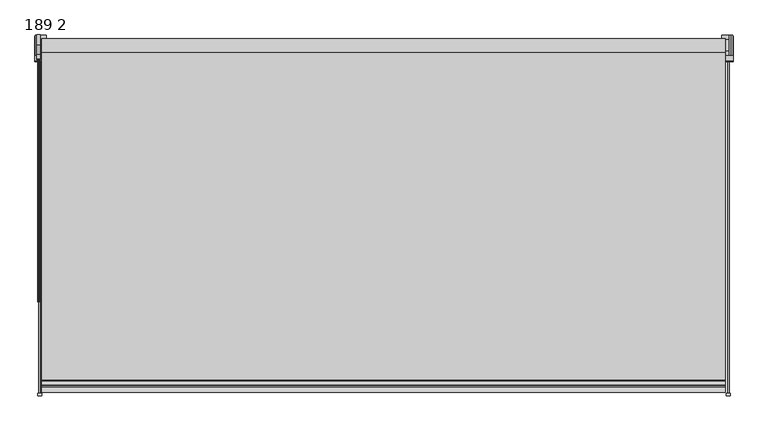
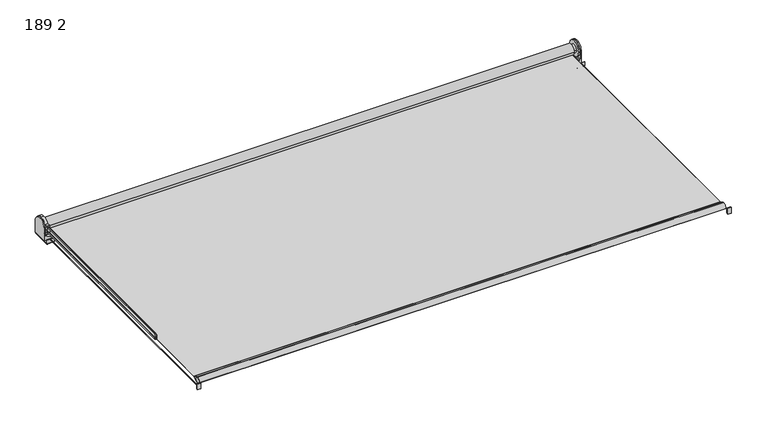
"""IFC4 building model written with IfcOpenShell, lengths in millimetres: proxy geometry, Bandalux_RollerShades_Premium_SingleDrop : 189 2."""

from ifc_helpers import new_model, si_unit, point, frame, frame_2d, origin, place, context, project, spatial, polyline, circle_curve, ellipse_curve, trimmed, segment, composite_curve, outline, extrude, source, transform, mapped, element, save
from ifc_brep_helpers import plane_surface, cylinder_surface, revolved_surface, advanced_brep


def proxy_189_2_be0c6724(model_context):
    return source(origin(), model_context, "Body", "SolidModel", [
        extrude(outline(composite_curve([segment(trimmed(circle_curve(frame_2d((13.8568685, 46.18904)), 29.0636887), [point((13.8568274, 75.2527288))], [point((13.8568685, 17.1253513))], False, "CARTESIAN"), True, "CONTINUOUS"), segment(trimmed(circle_curve(frame_2d((13.0459089, 46.1890395)), 29.075), [point((13.8568685, 17.1253513))], [point((-11.4388077, 30.5092985))], False, "CARTESIAN"), True, "CONTINUOUS"), segment(polyline([(-11.4388077, 30.5092985), (-22.8856924, 30.5092985)]), True, "CONTINUOUS"), segment(trimmed(circle_curve(frame_2d((13.0459089, 46.7342994)), 39.425), [point((-22.8856924, 30.5092985))], [point((-23.3206968, 61.9592991))], False, "CARTESIAN"), True, "CONTINUOUS"), segment(polyline([(-23.3206968, 61.9592991), (-11.380604, 61.9592991)]), True, "CONTINUOUS"), segment(trimmed(circle_curve(frame_2d((13.0459089, 46.1890395)), 29.075), [point((-11.380604, 61.9592991))], [point((13.8568274, 75.2527288))], False, "CARTESIAN"), True, "CONTINUOUS")], self_intersect=False)), frame((-970.8, 0.0, 0.0), z_axis=(1.0, 0.0, 0.0), x_axis=(0.0, 1.0, 0.0)), (0.0, 0.0, 1.0), 9.8),
        advanced_brep(
        [(-970.8, -14.2862631, 46.4), (-970.8, -14.2862631, 21.0), (-970.8, 42.0, 21.0), (-970.8, 42.0, 46.4), (-975.0, 42.0, 2.0), (-975.0, -14.2862631, 2.0), (-975.0, -14.2862631, 46.4), (-975.0, 41.9301797, 46.4), (-966.8, 42.0, 17.0), (-966.8, 42.0, 14.3676071), (-944.5, 42.0, 10.0329262), (-944.5, 42.0, 2.0), (-944.5, -14.2862631, 2.0), (-944.5, -14.2862631, 10.0329262), (-966.8, -14.2862631, 14.3676071), (-966.8, -14.2862631, 17.0)],
        [
            (0, 1),
            (1, 2),
            (2, 3),
            (3, 0, circle_curve(frame((-970.8, 13.8568685, 46.4), z_axis=(1.0, 0.0, 0.0), x_axis=(0.0, -1.0, 0.0)), 28.0733113)),
            (4, 5),
            (5, 6),
            (6, 7, circle_curve(frame((-975.0, 13.8568685, 46.4), z_axis=(-1.0, 0.0, 0.0), x_axis=(0.0, -1.0, 0.0)), 28.0733113)),
            (7, 4),
            (7, 3),
            (2, 8),
            (8, 9),
            (9, 10),
            (10, 11),
            (11, 4),
            (6, 0),
            (5, 12),
            (12, 13),
            (13, 14),
            (14, 15),
            (15, 1),
            (11, 12),
            (14, 9),
            (8, 15),
            (13, 10),
        ],
        [
            plane_surface(frame((-970.8, 42.0, 15.7573593), z_axis=(1.0, 0.0, 0.0), x_axis=(0.0, 0.0, -1.0))),
            plane_surface(frame((-975.0, 42.0, 15.7573593), z_axis=(-1.0, 0.0, 0.0), x_axis=(0.0, 0.0, 1.0))),
            plane_surface(frame((-975.0, 42.0, 2.0), z_axis=(0.0, 1.0, 0.0), x_axis=(1.0, 0.0, 0.0))),
            cylinder_surface(frame((-970.8, 13.8568685, 46.4), z_axis=(-1.0, 0.0, 0.0), x_axis=(0.0, -1.0, 0.0)), 28.0733113),
            plane_surface(frame((-975.0, -14.2862631, 46.4), z_axis=(0.0, -1.0, 0.0), x_axis=(1.0, 0.0, 0.0))),
            plane_surface(frame((-975.0, -14.2862631, 2.0), z_axis=(0.0, 0.0, -1.0), x_axis=(1.0, 0.0, 0.0))),
            plane_surface(frame((-966.8, -14.2862631, 17.0), z_axis=(1.0, 0.0, 0.0), x_axis=(0.0, 1.0, 0.0))),
            plane_surface(frame((-966.8, -14.2862631, 14.3676071), z_axis=(0.19080899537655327, 0.0, 0.9816271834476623), x_axis=(0.0, 1.0, 0.0))),
            plane_surface(frame((-944.5, -14.2862631, 10.0329262), z_axis=(1.0, 0.0, 0.0), x_axis=(0.0, 1.0, 0.0))),
            plane_surface(frame((-970.8, -14.2862631, 21.0), z_axis=(0.7071067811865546, 0.0, 0.7071067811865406), x_axis=(0.0, 1.0, 0.0))),
        ],
        [
            (0, [[1, 2, 3, 4]]),
            (1, [[5, 6, 7, 8]]),
            (2, [[9, -3, 10, 11, 12, 13, 14, -8]]),
            (3, [[-9, -7, 15, -4]]),
            (4, [[16, 17, 18, 19, 20, -1, -15, -6]]),
            (5, [[21, -16, -5, -14]]),
            (6, [[22, -11, 23, -19]]),
            (7, [[24, -12, -22, -18]]),
            (8, [[-21, -13, -24, -17]]),
            (9, [[-23, -10, -2, -20]]),
        ],
    ),
        advanced_brep(
        [(970.8, -14.2164428, 46.4), (970.8, 41.9301797, 46.4), (970.8, 42.0, 21.0), (970.8, -14.2862631, 21.0), (975.0, 42.0, 2.0), (975.0, 42.0, 46.4), (975.0, -14.2164428, 46.4), (975.0, -14.2862631, 2.0), (944.5, 42.0, 2.0), (944.5, 42.0, 10.0329262), (966.8, 42.0, 14.3676071), (966.8, 42.0, 17.0), (966.8, -14.2862631, 17.0), (966.8, -14.2862631, 14.3676071), (944.5, -14.2862631, 10.0329262), (944.5, -14.2862631, 2.0)],
        [
            (0, 1, circle_curve(frame((970.8, 13.8568685, 46.4), z_axis=(-1.0, 0.0, 0.0), x_axis=(0.0, -1.0, 0.0)), 28.0733113)),
            (1, 2),
            (2, 3),
            (3, 0),
            (4, 5),
            (5, 6, circle_curve(frame((975.0, 13.8568685, 46.4), z_axis=(1.0, 0.0, 0.0), x_axis=(0.0, -1.0, 0.0)), 28.0733113)),
            (6, 7),
            (7, 4),
            (4, 8),
            (8, 9),
            (9, 10),
            (10, 11),
            (11, 2),
            (1, 5),
            (0, 6),
            (3, 12),
            (12, 13),
            (13, 14),
            (14, 15),
            (15, 7),
            (15, 8),
            (12, 11),
            (10, 13),
            (9, 14),
        ],
        [
            plane_surface(frame((970.8, 42.0, 15.7573593), z_axis=(-1.0, 0.0, 0.0), x_axis=(0.0, 0.0, -1.0))),
            plane_surface(frame((975.0, 42.0, 15.7573593), z_axis=(1.0, 0.0, 0.0), x_axis=(0.0, 0.0, 1.0))),
            plane_surface(frame((975.0, 42.0, 2.0), z_axis=(0.0, 1.0, 0.0), x_axis=(-1.0, 0.0, 0.0))),
            cylinder_surface(frame((970.8, 13.8568685, 46.4), z_axis=(1.0, 0.0, 0.0), x_axis=(0.0, -1.0, 0.0)), 28.0733113),
            plane_surface(frame((975.0, -14.2862631, 46.4), z_axis=(0.0, -1.0, 0.0), x_axis=(-1.0, 0.0, 0.0))),
            plane_surface(frame((975.0, -14.2862631, 2.0), z_axis=(0.0, 0.0, -1.0), x_axis=(-1.0, 0.0, 0.0))),
            plane_surface(frame((966.8, -14.2862631, 17.0), z_axis=(-1.0, 0.0, 0.0), x_axis=(0.0, 1.0, 0.0))),
            plane_surface(frame((966.8, -14.2862631, 14.3676071), z_axis=(-0.19080899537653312, 0.0, 0.9816271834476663), x_axis=(0.0, 1.0, 0.0))),
            plane_surface(frame((944.5, -14.2862631, 10.0329262), z_axis=(-1.0, 0.0, 0.0), x_axis=(0.0, 1.0, 0.0))),
            plane_surface(frame((970.8, -14.2862631, 21.0), z_axis=(-0.7071067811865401, 0.0, 0.707106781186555), x_axis=(0.0, 1.0, 0.0))),
        ],
        [
            (0, [[1, 2, 3, 4]]),
            (1, [[5, 6, 7, 8]]),
            (2, [[-5, 9, 10, 11, 12, 13, -2, 14]]),
            (3, [[-1, 15, -6, -14]]),
            (4, [[-7, -15, -4, 16, 17, 18, 19, 20]]),
            (5, [[-9, -8, -20, 21]]),
            (6, [[-17, 22, -12, 23]]),
            (7, [[-18, -23, -11, 24]]),
            (8, [[-19, -24, -10, -21]]),
            (9, [[-16, -3, -13, -22]]),
        ],
    ),
        extrude(outline(composite_curve([segment(trimmed(circle_curve(frame_2d((13.8568685, 46.4)), 28.0733113), [point((41.9301797, 46.4))], [point((-14.2164428, 46.4))], False, "CARTESIAN"), True, "CONTINUOUS"), segment(trimmed(circle_curve(frame_2d((13.8568685, 46.4)), 28.0733113), [point((-14.2164428, 46.4))], [point((41.9301797, 46.4))], False, "CARTESIAN"), True, "CONTINUOUS")], self_intersect=False)), frame((965.0, 0.0, 0.0), z_axis=(1.0, 0.0, 0.0), x_axis=(0.0, 1.0, 0.0)), (0.0, 0.0, 1.0), 5.8),
        extrude(outline(composite_curve([segment(trimmed(circle_curve(frame_2d((-947.2, 27.58904)), 10.0), [point((-957.2, 27.58904))], [point((-937.2, 27.58904))], False, "CARTESIAN"), True, "CONTINUOUS"), segment(trimmed(circle_curve(frame_2d((-947.2, 27.58904)), 10.0), [point((-937.2, 27.58904))], [point((-957.2, 27.58904))], False, "CARTESIAN"), True, "CONTINUOUS")], self_intersect=False)), frame((-957.0, 0.0, 0.0), z_axis=(1.0, 0.0, 0.0), x_axis=(0.0, 1.0, 0.0)), (0.0, 0.0, 1.0), 1911.0),
        advanced_brep(
        [(954.0, -924.0848152, 27.58904), (954.0, -942.1539547, 37.1377415), (954.0, -942.1539603, 18.0403499), (954.0, -925.7970491, 27.58904), (954.0, -942.5277469, 18.7476571), (954.0, -942.5277472, 36.430423), (-957.0, -924.0848152, 27.58904), (-957.0, -942.1539544, 18.0403387), (-957.0, -942.1539606, 37.1377303), (-957.0, -925.7970491, 27.58904), (-957.0, -942.5277472, 36.430423), (-957.0, -942.5277469, 18.7476571)],
        [
            (0, 1),
            (1, 2, circle_curve(frame((954.0, -947.2, 27.58904), z_axis=(1.0, 0.0, 0.0), x_axis=(0.0, 1.0, 0.0)), 10.8)),
            (2, 0),
            (3, 4),
            (4, 5, circle_curve(frame((954.0, -947.2, 27.58904), z_axis=(-1.0, 0.0, 0.0), x_axis=(0.0, 1.0, 0.0)), 10.0)),
            (5, 3),
            (6, 7),
            (7, 8, circle_curve(frame((-957.0, -947.2, 27.58904), z_axis=(-1.0, 0.0, 0.0), x_axis=(0.0, 1.0, 0.0)), 10.8)),
            (8, 6),
            (9, 10),
            (10, 11, circle_curve(frame((-957.0, -947.2, 27.58904), z_axis=(1.0, 0.0, 0.0), x_axis=(0.0, 1.0, 0.0)), 10.0)),
            (11, 9),
            (3, 9),
            (11, 4),
            (10, 5),
            (0, 6),
            (8, 1),
            (7, 2),
        ],
        [
            plane_surface(frame((954.0, -925.7970491, 27.58904), z_axis=(1.0000000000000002, 0.0, 0.0), x_axis=(0.0, -0.8841382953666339, -0.4672252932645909))),
            plane_surface(frame((-957.0, -925.7970491, 27.58904), z_axis=(-1.0000000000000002, 0.0, 0.0), x_axis=(0.0, 0.8841382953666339, 0.4672252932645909))),
            plane_surface(frame((954.0, -925.7970491, 27.58904), z_axis=(0.0, -0.4672252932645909, 0.8841382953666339), x_axis=(-1.0, 0.0, 0.0))),
            revolved_surface(polyline([(-957.0, -937.2, 27.58904), (954.0, -937.2, 27.58904)]), (-957.0, -947.2, 27.58904), (-1.0, 0.0, 0.0)),
            plane_surface(frame((954.0, -942.5277472, 36.430423), z_axis=(0.0, -0.46722529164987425, -0.8841382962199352), x_axis=(-1.0, 0.0, 0.0))),
            plane_surface(frame((954.0, -924.0848152, 27.58904), z_axis=(0.0, 0.4672258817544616, 0.8841379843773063), x_axis=(-1.0, 0.0, 0.0))),
            cylinder_surface(frame((-6.2063213, -947.2, 27.58904), z_axis=(1.0, 0.0, 0.0), x_axis=(0.0, 1.0, 0.0)), 10.8),
            plane_surface(frame((954.0, -942.1539544, 18.0403387), z_axis=(0.0, 0.4672258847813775, -0.8841379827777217), x_axis=(-1.0, 0.0, 0.0))),
        ],
        [
            (0, [[1, 2, 3], [4, 5, 6]]),
            (1, [[7, 8, 9], [10, 11, 12]]),
            (2, [[-4, 13, -12, 14]]),
            (3, [[-5, -14, -11, 15]]),
            (4, [[-6, -15, -10, -13]]),
            (5, [[-1, 16, -9, 17]]),
            (6, [[-2, -17, -8, 18]]),
            (7, [[-3, -18, -7, -16]]),
        ],
    ),
        extrude(outline(composite_curve([segment(polyline([(-32.5088831, 2.9998134), (-32.5088831, 16.9999987), (-30.509218, 16.9999987), (-30.509218, 1.9998883), (38.4911174, 1.9998883), (38.4911174, -3e-07), (-29.5090693, -3e-07)]), True, "CONTINUOUS"), segment(trimmed(circle_curve(frame_2d((-29.5090693, 2.9998134)), 2.9998137), [point((-29.5090693, -3e-07))], [point((-32.5088831, 2.9998134))], False, "CARTESIAN"), True, "CONTINUOUS")], self_intersect=False)), frame((950.0, 0.0, 0.0), z_axis=(1.0, 0.0, 0.0), x_axis=(0.0, 1.0, 0.0)), (0.0, 0.0, 1.0), 26.0),
        extrude(outline(polyline([(-961.000001, 7.6875), (-967.000001, 5.8875), (-967.000001, 27.8875), (-961.000001, 26.0875), (-961.000001, 7.6875)])), frame((957.25, 0.0, 0.0), z_axis=(1.0, 0.0, 0.0), x_axis=(0.0, 1.0, 0.0)), (0.0, 0.0, 1.0), 11.5),
        extrude(outline(composite_curve([segment(trimmed(circle_curve(frame_2d((14.65625, 963.0)), 1.6), [point((14.65625, 964.6))], [point((14.65625, 961.4))], False, "CARTESIAN"), True, "CONTINUOUS"), segment(trimmed(circle_curve(frame_2d((14.65625, 963.0)), 1.6), [point((14.65625, 961.4))], [point((14.65625, 964.6))], False, "CARTESIAN"), True, "CONTINUOUS")], self_intersect=False)), frame((0.0, -961.000001, 0.0), z_axis=(0.0, 1.0, 0.0), x_axis=(0.0, 0.0, 1.0)), (0.0, 0.0, 1.0), 928.5),
        extrude(outline(composite_curve([segment(polyline([(-32.5088831, 2.9998134), (-32.5088831, 16.9999987), (-30.509218, 16.9999987), (-30.509218, 1.9998883), (38.4911174, 1.9998883), (38.4911174, -3e-07), (-29.5090693, -3e-07)]), True, "CONTINUOUS"), segment(trimmed(circle_curve(frame_2d((-29.5090693, 2.9998134)), 2.9998137), [point((-29.5090693, -3e-07))], [point((-32.5088831, 2.9998134))], False, "CARTESIAN"), True, "CONTINUOUS")], self_intersect=False)), frame((-976.0, 0.0, 0.0), z_axis=(1.0, 0.0, 0.0), x_axis=(0.0, 1.0, 0.0)), (0.0, 0.0, 1.0), 26.0),
        extrude(outline(polyline([(-961.000001, 7.6875), (-967.000001, 5.8875), (-967.000001, 27.8875), (-961.000001, 26.0875), (-961.000001, 7.6875)])), frame((-968.75, 0.0, 0.0), z_axis=(1.0, 0.0, 0.0), x_axis=(0.0, 1.0, 0.0)), (0.0, 0.0, 1.0), 11.5),
        extrude(outline(composite_curve([segment(trimmed(circle_curve(frame_2d((14.65625, -963.0)), 1.6), [point((14.65625, -964.6))], [point((14.65625, -961.4))], False, "CARTESIAN"), True, "CONTINUOUS"), segment(trimmed(circle_curve(frame_2d((14.65625, -963.0)), 1.6), [point((14.65625, -961.4))], [point((14.65625, -964.6))], False, "CARTESIAN"), True, "CONTINUOUS")], self_intersect=False)), frame((0.0, -961.000001, 0.0), z_axis=(0.0, 1.0, 0.0), x_axis=(0.0, 0.0, 1.0)), (0.0, 0.0, 1.0), 928.5),
        advanced_brep(
        [(-966.0, 5.2137369, 59.0), (-966.0, 5.2137369, 55.0), (-966.0, -693.2862631, 55.0), (-966.0, -693.2862631, 59.0), (-966.0, 5.2137369, 35.0), (-966.0, 5.2137369, 39.0), (-966.0, -693.2862631, 39.0), (-966.0, -693.2862631, 35.0)],
        [
            (0, 1, circle_curve(frame((-966.0, 5.2137369, 57.0), z_axis=(0.0, 1.0, 0.0), x_axis=(0.0, 0.0, -1.0)), 2.0)),
            (1, 0, circle_curve(frame((-966.0, 5.2137369, 57.0), z_axis=(0.0, 1.0, 0.0), x_axis=(0.0, 0.0, -1.0)), 2.0)),
            (1, 2),
            (2, 3, circle_curve(frame((-966.0, -693.2862631, 57.0), z_axis=(0.0, 1.0, 0.0), x_axis=(0.0, 0.0, -1.0)), 2.0)),
            (3, 0),
            (3, 2, circle_curve(frame((-966.0, -693.2862631, 57.0), z_axis=(0.0, 1.0, 0.0), x_axis=(0.0, 0.0, -1.0)), 2.0)),
            (4, 5, circle_curve(frame((-966.0, 5.2137369, 37.0), z_axis=(0.0, 1.0, 0.0), x_axis=(0.0, 0.0, 1.0)), 2.0)),
            (5, 4, circle_curve(frame((-966.0, 5.2137369, 37.0), z_axis=(0.0, 1.0, 0.0), x_axis=(0.0, 0.0, 1.0)), 2.0)),
            (6, 5),
            (4, 7),
            (7, 6, circle_curve(frame((-966.0, -693.2862631, 37.0), z_axis=(0.0, 1.0, 0.0), x_axis=(0.0, 0.0, 1.0)), 2.0)),
            (6, 7, circle_curve(frame((-966.0, -693.2862631, 37.0), z_axis=(0.0, 1.0, 0.0), x_axis=(0.0, 0.0, 1.0)), 2.0)),
            (7, 3, circle_curve(frame((-966.0, -693.2862631, 47.0), z_axis=(-1.0, 0.0, 0.0), x_axis=(0.0, 0.0, 1.0)), 12.0)),
            (2, 6, circle_curve(frame((-966.0, -693.2862631, 47.0), z_axis=(1.0, 0.0, 0.0), x_axis=(0.0, 0.0, 1.0)), 8.0)),
        ],
        [
            plane_surface(frame((-963.0, 5.2137369, 57.0), z_axis=(0.0, 1.0, 0.0), x_axis=(-1.0, 0.0, 0.0))),
            cylinder_surface(frame((-966.0, 5.2137369, 57.0), z_axis=(0.0, 1.0, 0.0), x_axis=(0.0, 0.0, -1.0)), 2.0),
            plane_surface(frame((-963.0, 5.2137369, 37.0), z_axis=(0.0, 1.0, 0.0), x_axis=(-1.0, 0.0, 0.0))),
            cylinder_surface(frame((-966.0, -693.2862631, 37.0), z_axis=(0.0, -1.0, 0.0), x_axis=(0.0, 0.0, 1.0)), 2.0),
            revolved_surface(trimmed(ellipse_curve(frame((-966.0, -693.2862631, 57.0), z_axis=(0.0, -1.0, 0.0), x_axis=(0.0, 0.0, -1.0)), 2.0, 2.0), [point((-966.0, -693.2862631, 59.0))], [point((-966.0, -693.2862631, 55.0))], True, "CARTESIAN"), (-963.0, -693.2862631, 47.0), (-1.0, 0.0, 0.0)),
            revolved_surface(trimmed(ellipse_curve(frame((-966.0, -693.2862631, 57.0), z_axis=(0.0, -1.0, 0.0), x_axis=(0.0, 0.0, -1.0)), 2.0, 2.0), [point((-966.0, -693.2862631, 55.0))], [point((-966.0, -693.2862631, 59.0))], True, "CARTESIAN"), (-963.0, -693.2862631, 47.0), (-1.0, 0.0, 0.0)),
        ],
        [
            (0, [[1, 2]]),
            (1, [[3, 4, 5, -2]]),
            (1, [[-5, 6, -3, -1]]),
            (2, [[7, 8]]),
            (3, [[9, -7, 10, 11]]),
            (3, [[-10, -8, -9, 12]]),
            (4, [[-11, 13, -4, 14]]),
            (5, [[-12, -14, -6, -13]]),
        ],
    ),
        extrude(outline(composite_curve([segment(trimmed(circle_curve(frame_2d((13.8568685, 46.18904)), 19.0), [point((-5.1431315, 46.18904))], [point((32.8568685, 46.18904))], False, "CARTESIAN"), True, "CONTINUOUS"), segment(trimmed(circle_curve(frame_2d((13.8568685, 46.18904)), 19.0), [point((32.8568685, 46.18904))], [point((13.8568685, 27.18904))], False, "CARTESIAN"), True, "CONTINUOUS"), segment(polyline([(13.8568685, 27.18904), (-924.1, 27.18904), (-924.1, 27.98904), (8.4015958, 27.98904)]), True, "CONTINUOUS"), segment(trimmed(circle_curve(frame_2d((13.8568685, 46.18904)), 19.0), [point((8.4015958, 27.98904))], [point((-5.1431315, 46.18904))], False, "CARTESIAN"), True, "CONTINUOUS")], self_intersect=False)), frame((-957.0, 0.0, 0.0), z_axis=(1.0, 0.0, 0.0), x_axis=(0.0, 1.0, 0.0)), (0.0, 0.0, 1.0), 1911.0),
        extrude(outline(composite_curve([segment(trimmed(circle_curve(frame_2d((13.8568685, 46.18904)), 15.0), [point((-1.1431315, 46.18904))], [point((28.8568685, 46.18904))], False, "CARTESIAN"), True, "CONTINUOUS"), segment(trimmed(circle_curve(frame_2d((13.8568685, 46.18904)), 15.0), [point((28.8568685, 46.18904))], [point((-1.1431315, 46.18904))], False, "CARTESIAN"), True, "CONTINUOUS")], self_intersect=False)), frame((954.0, 0.0, 0.0), z_axis=(1.0, 0.0, 0.0), x_axis=(0.0, 1.0, 0.0)), (0.0, 0.0, 1.0), 11.0),
        extrude(outline(composite_curve([segment(trimmed(circle_curve(frame_2d((13.8568685, 46.18904)), 15.0), [point((-1.1431315, 46.18904))], [point((28.8568685, 46.18904))], False, "CARTESIAN"), True, "CONTINUOUS"), segment(trimmed(circle_curve(frame_2d((13.8568685, 46.18904)), 15.0), [point((28.8568685, 46.18904))], [point((-1.1431315, 46.18904))], False, "CARTESIAN"), True, "CONTINUOUS")], self_intersect=False)), frame((-961.0, 0.0, 0.0), z_axis=(1.0, 0.0, 0.0), x_axis=(0.0, 1.0, 0.0)), (0.0, 0.0, 1.0), 4.0),
    ])


if __name__ == "__main__":
    model = new_model("IFC4")
    model_context = context("Model", 3, world=origin())
    ifc_project = project(units=[si_unit("LENGTHUNIT", "METRE", prefix="MILLI")], contexts=[model_context])
    site = spatial("IfcSite", under=ifc_project)
    building = spatial("IfcBuilding", under=site)
    placement = place(None, origin())
    proxy_189_2_shape = proxy_189_2_be0c6724(model_context)
    element("IfcBuildingElementProxy", 1, Name="Bandalux_RollerShades_Premium_SingleDrop : 189 2", ObjectType="Bandalux_RollerShades_Premium_SingleDrop : 189 2", at=placement, inside=building, context=model_context, shape_type="MappedRepresentation", body=[
        mapped(proxy_189_2_shape, transform((0.0, 0.0, 0.0), x_axis=(1.0, 0.0, 0.0), y_axis=(0.0, 1.0, 0.0), z_axis=(0.0, 0.0, 1.0))),
    ])
    save(model, "model.ifc")
